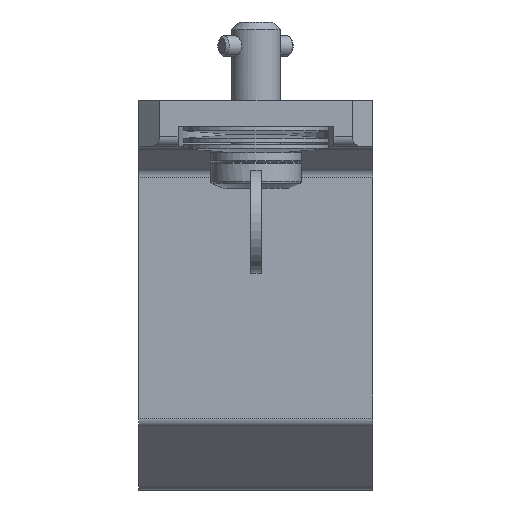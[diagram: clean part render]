
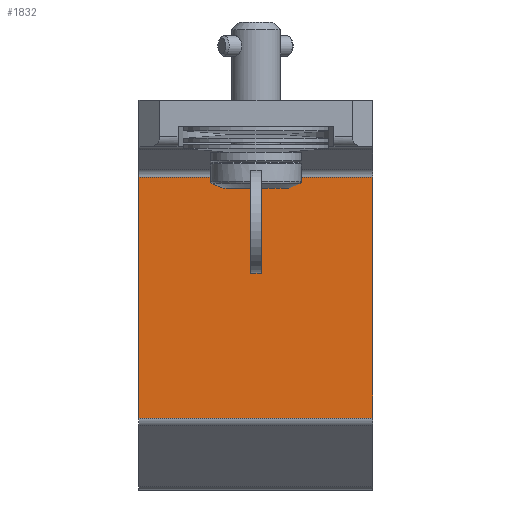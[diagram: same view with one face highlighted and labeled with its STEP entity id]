
A CAD part, left-side view. The second image highlights one B-rep face of the part: STEP entity #1832.
In plain terms, the highlighted planar face has unit normal (-1, 0, 0).
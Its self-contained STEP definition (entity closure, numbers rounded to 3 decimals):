
#118=LINE('',#3146,#258);
#119=LINE('',#3149,#259);
#120=LINE('',#3151,#260);
#121=LINE('',#3153,#261);
#258=VECTOR('',#2511,1000.);
#259=VECTOR('',#2512,1000.);
#260=VECTOR('',#2513,1000.);
#261=VECTOR('',#2514,1000.);
#410=PLANE('',#2069);
#725=ORIENTED_EDGE('',*,*,#1133,.T.);
#726=ORIENTED_EDGE('',*,*,#1134,.T.);
#727=ORIENTED_EDGE('',*,*,#1135,.F.);
#728=ORIENTED_EDGE('',*,*,#1136,.T.);
#1133=EDGE_CURVE('',#1359,#1360,#118,.T.);
#1134=EDGE_CURVE('',#1360,#1361,#119,.F.);
#1135=EDGE_CURVE('',#1362,#1361,#120,.T.);
#1136=EDGE_CURVE('',#1362,#1359,#121,.F.);
#1359=VERTEX_POINT('',#3147);
#1360=VERTEX_POINT('',#3148);
#1361=VERTEX_POINT('',#3150);
#1362=VERTEX_POINT('',#3152);
#1580=EDGE_LOOP('',(#725,#726,#727,#728));
#1716=FACE_BOUND('',#1580,.T.);
#1832=ADVANCED_FACE('',(#1716),#410,.T.);
#2069=AXIS2_PLACEMENT_3D('',#3145,#2509,#2510);
#2509=DIRECTION('',(-1.,0.,0.));
#2510=DIRECTION('',(0.,0.,1.));
#2511=DIRECTION('',(0.,0.,1.));
#2512=DIRECTION('',(0.,-1.,0.));
#2513=DIRECTION('',(0.,0.,1.));
#2514=DIRECTION('',(0.,1.,0.));
#3145=CARTESIAN_POINT('',(-43.,-22.5,-75.));
#3146=CARTESIAN_POINT('',(-43.,-22.5,-75.));
#3147=CARTESIAN_POINT('',(-43.,-22.5,-61.172));
#3148=CARTESIAN_POINT('',(-43.,-22.5,-14.828));
#3149=CARTESIAN_POINT('',(-43.,-22.5,-14.828));
#3150=CARTESIAN_POINT('',(-43.,22.5,-14.828));
#3151=CARTESIAN_POINT('',(-43.,22.5,-75.));
#3152=CARTESIAN_POINT('',(-43.,22.5,-61.172));
#3153=CARTESIAN_POINT('',(-43.,-22.5,-61.172));
